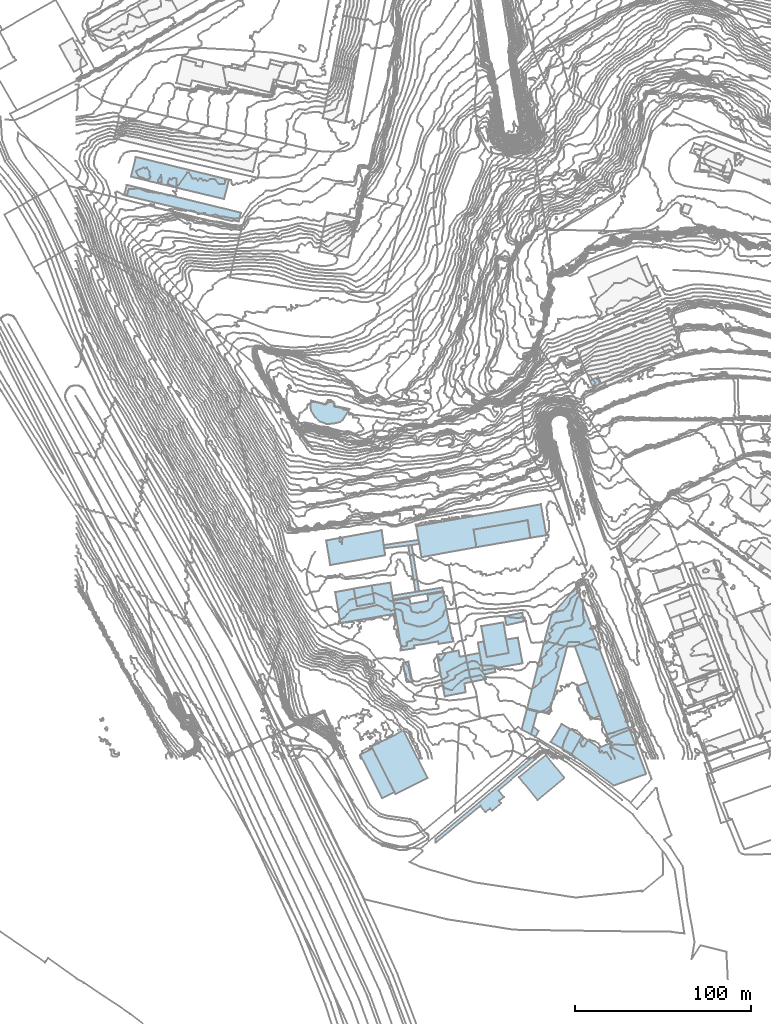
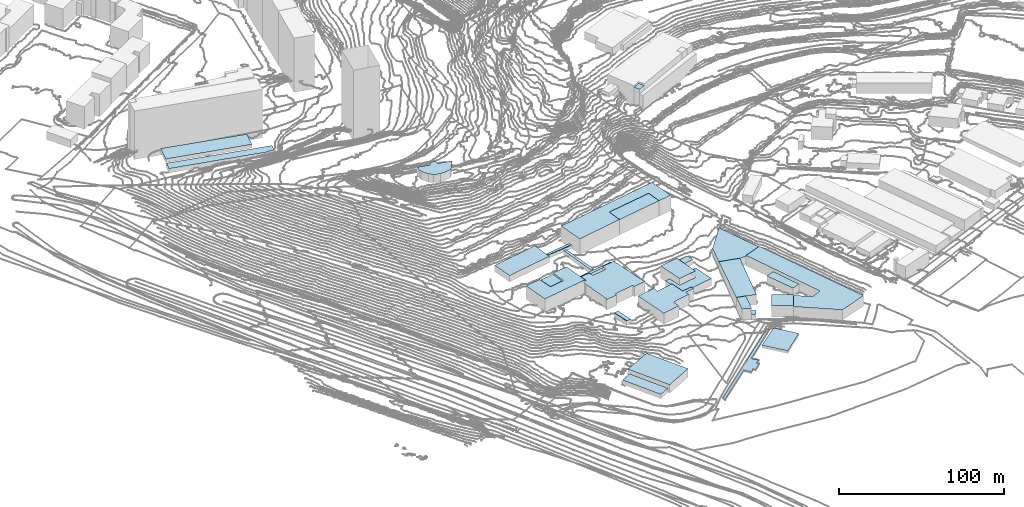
# Not in any storey, part 71 of 419: 30 roofs.
"""IFC2X3 model written with IfcOpenShell, lengths in metres."""

import ifcopenshell
import ifcopenshell.guid

model = None  # the IFC model being written
_history = None  # IfcOwnerHistory: only IFC2X3 demands one
_inside = {}  # id of a spatial element -> (the spatial element, [elements in it])
_under = {}  # id of a project, library or spatial element -> (it, [spatial elements below it])
_declared = {}  # id of a project -> (the project, [libraries it declares])
_typed = {}  # id of a type object -> (the type object, [elements of that type])
_made_of = {}  # id of a material, layer set ... -> (it, [elements and type objects made of it])


def new_model(schema):
    """Start an empty IFC model of exactly this schema.

    Asked for "IFC4X3", IfcOpenShell would pick the latest addendum, in which some entities
    have other attributes; the version numbers below select the first issue.
    IFC2X3 requires an IfcOwnerHistory on every rooted entity: one is made here for all.
    """
    global model, _history
    if schema == "IFC4X3":
        model = ifcopenshell.file(schema_version=(4, 3, 0, 0))
    else:
        model = ifcopenshell.file(schema=schema)
    _inside.clear()
    _under.clear()
    _declared.clear()
    _typed.clear()
    _made_of.clear()
    _history = None
    if model.schema == "IFC2X3":
        org = make("IfcOrganization", Name="unknown")
        user = make(
            "IfcPersonAndOrganization",
            ThePerson=make("IfcPerson", FamilyName="unknown"),
            TheOrganization=org,
        )
        app = make(
            "IfcApplication",
            ApplicationDeveloper=org,
            Version="unknown",
            ApplicationFullName="unknown",
            ApplicationIdentifier="unknown",
        )
        _history = make(
            "IfcOwnerHistory",
            OwningUser=user,
            OwningApplication=app,
            ChangeAction="ADDED",
            CreationDate=0,
        )
    return model


def make(cls, **values):
    """One entity of the class cls with the attributes given. An attribute that is None is left unset."""
    return model.create_entity(
        cls, **{name: value for name, value in values.items() if value is not None}
    )


def rooted(cls, **values):
    """An entity with a GlobalId (a new one), such as an element, a storey or a relation."""
    return make(cls, GlobalId=ifcopenshell.guid.new(), OwnerHistory=_history, **values)


def si_unit(unit_type, name, prefix=None):
    """IfcSIUnit, for example si_unit("LENGTHUNIT", "METRE", prefix="MILLI")."""
    return make("IfcSIUnit", UnitType=unit_type, Prefix=prefix, Name=name)


def assignment(units):
    """IfcUnitAssignment: the units of a project."""
    return None if units is None else make("IfcUnitAssignment", Units=units)


def point(xyz):
    """IfcCartesianPoint."""
    return None if xyz is None else make("IfcCartesianPoint", Coordinates=xyz)


def direction(xyz):
    """IfcDirection."""
    return None if xyz is None else make("IfcDirection", DirectionRatios=xyz)


def frame(location, z_axis=None, x_axis=None):
    """IfcAxis2Placement3D, a coordinate frame: its origin and axes. An axis left out is left unset."""
    return make(
        "IfcAxis2Placement3D",
        Location=point(location),
        Axis=direction(z_axis),
        RefDirection=direction(x_axis),
    )


def origin_with_axes():
    """The frame at (0, 0, 0) with the z axis (0, 0, 1) and the x axis (1, 0, 0) written out."""
    return frame((0.0, 0.0, 0.0), z_axis=(0.0, 0.0, 1.0), x_axis=(1.0, 0.0, 0.0))


def place(relative_to, where):
    """IfcLocalPlacement: puts the frame where relative to a parent placement (None: the world)."""
    return make(
        "IfcLocalPlacement", PlacementRelTo=relative_to, RelativePlacement=where
    )


def context(
    kind, dimensions, precision=None, world=None, true_north=None, identifier=None
):
    """IfcGeometricRepresentationContext, for example the 3D "Model" context."""
    return make(
        "IfcGeometricRepresentationContext",
        ContextIdentifier=identifier,
        ContextType=kind,
        CoordinateSpaceDimension=dimensions,
        Precision=precision,
        WorldCoordinateSystem=world,
        TrueNorth=true_north,
    )


def subcontext(parent, identifier, kind, view, scale=None):
    """IfcGeometricRepresentationSubContext, for example "Body" below "Model"."""
    return make(
        "IfcGeometricRepresentationSubContext",
        ContextIdentifier=identifier,
        ContextType=kind,
        ParentContext=parent,
        TargetScale=scale,
        TargetView=view,
    )


def project(units=None, contexts=None):
    """IfcProject with its units and contexts."""
    return rooted(
        "IfcProject",
        Name="project",
        RepresentationContexts=contexts,
        UnitsInContext=assignment(units),
    )


def faces_of(points, faces, orient=None, outer=None):
    """IfcFace entities. A face is a list of loops; a loop is a list of indices into points, from 0.

    orient and outer hold one flag for each loop. By default every Orientation is true, the
    first loop of a face is its IfcFaceOuterBound and the others are IfcFaceBound.
    """
    made = []
    for i, loops in enumerate(faces):
        bounds = []
        for j, loop in enumerate(loops):
            is_outer = j == 0 if outer is None else outer[i][j]
            bounds.append(
                make(
                    "IfcFaceOuterBound" if is_outer else "IfcFaceBound",
                    Bound=make("IfcPolyLoop", Polygon=[points[k] for k in loop]),
                    Orientation=True if orient is None else orient[i][j],
                )
            )
        made.append(make("IfcFace", Bounds=bounds))
    return made


def faceted_brep(points, faces, orient=None, outer=None, voids=None):
    """IfcFacetedBrep: a solid bounded by flat faces; with voids (closed shells), ...WithVoids."""
    shared = [point(p) for p in points]
    hull = make("IfcClosedShell", CfsFaces=faces_of(shared, faces, orient, outer))
    if voids is None:
        return make("IfcFacetedBrep", Outer=hull)
    return make(
        "IfcFacetedBrepWithVoids",
        Outer=hull,
        Voids=[
            make(cls, CfsFaces=faces_of(shared, fs, o, b)) for cls, fs, o, b in voids
        ],
    )


def shape(context_of_items, identifier, shape_type, items):
    """IfcShapeRepresentation: the items that make up one representation, for example the "Body"."""
    return make(
        "IfcShapeRepresentation",
        ContextOfItems=context_of_items,
        RepresentationIdentifier=identifier,
        RepresentationType=shape_type,
        Items=items,
    )


def made_of(thing, what):
    """Note that an element or type object is made of a material, layer set ...; save() writes the relation."""
    if what is not None:
        _made_of.setdefault(what.id(), (what, []))[1].append(thing)
    return thing


def element(
    cls,
    number,
    at=None,
    inside=None,
    cuts=None,
    type_object=None,
    material=None,
    context=None,
    identifier="Body",
    shape_type=None,
    held_by="IfcProductDefinitionShape",
    body=None,
    shapes=None,
    **own,
):
    """One element of the class cls, such as IfcWall. Its Tag is "e" and its number.

    at: its placement. inside: the storey or other place that contains it. cuts: it is an
    opening in that element (IfcRelVoidsElement). A single representation is given by context,
    identifier, shape_type and body (its items); several are given by shapes. held_by: the class
    of the entity that holds the representations. save() writes the other relations.
    """
    e = rooted(cls, Tag="e%d" % number, ObjectPlacement=at, **own)
    if body is not None:
        shapes = [shape(context, identifier, shape_type, body)]
    if shapes is not None:
        e.Representation = make(held_by, Representations=shapes)
    if inside is not None:
        _inside.setdefault(inside.id(), (inside, []))[1].append(e)
    if cuts is not None:
        rooted(
            "IfcRelVoidsElement", RelatingBuildingElement=cuts, RelatedOpeningElement=e
        )
    if type_object is not None:
        _typed.setdefault(type_object.id(), (type_object, []))[1].append(e)
    return made_of(e, material)


def aggregate(whole, parts):
    """IfcRelAggregates: a whole, such as a stair, and the parts it consists of."""
    return rooted("IfcRelAggregates", RelatingObject=whole, RelatedObjects=parts)


def save(model, path):
    """Write the relations noted so far, then the file.

    IfcRelAggregates (storeys below a building ...), IfcRelContainedInSpatialStructure (elements
    in a storey), IfcRelDefinesByType, IfcRelAssociatesMaterial and IfcRelDeclares: one each for
    every whole, place, type object, material and project.
    """
    for whole, parts in _under.values():
        aggregate(whole, parts)
    for where, things in _inside.values():
        rooted(
            "IfcRelContainedInSpatialStructure",
            RelatedElements=things,
            RelatingStructure=where,
        )
    for kind, things in _typed.values():
        rooted("IfcRelDefinesByType", RelatedObjects=things, RelatingType=kind)
    for what, things in _made_of.values():
        rooted("IfcRelAssociatesMaterial", RelatedObjects=things, RelatingMaterial=what)
    for by, libraries in _declared.values():
        rooted("IfcRelDeclares", RelatingContext=by, RelatedDefinitions=libraries)
    model.write(path)


model = new_model("IFC2X3")

# Units and contexts
model_context = context("Model", 3, precision=1e-05, world=origin_with_axes())
body_context = subcontext(model_context, "Body", "Model", "MODEL_VIEW")
ifc_project = project(units=[si_unit("AREAUNIT", "SQUARE_METRE"), si_unit("LENGTHUNIT", "METRE")], contexts=[model_context])

# Roofs
roof_1_placement = place(None, frame((133.1920204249, 199.1976909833, 52.7420005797), z_axis=(0.0, 0.0, 1.0), x_axis=(1.0, 0.0, 0.0)))
element("IfcRoof", 1, at=roof_1_placement, Name="Toiture 0", ShapeType="NOTDEFINED", context=body_context, shape_type="Brep", body=[
    faceted_brep([(0.3999999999, 3.2999999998, 6.0), (0.0, 0.0, 6.0), (0.2999999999, -2.0, 6.0), (2.7999999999, -6.4000000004, 6.0), (5.2999999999, -8.6000000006, 6.0), (9.1, -10.0, 6.0), (13.1, -9.8000000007, 6.0), (16.7999999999, -8.9000000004, 6.0), (18.5, -7.4000000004, 6.0), (22.2, -1.5, 6.0), (13.5, 0.2999999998, 6.0), (13.2, 2.5999999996, 6.0), (11.3999999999, 3.5999999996, 6.0), (9.8999999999, 3.5, 6.0), (8.2999999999, 1.2999999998, 6.0)], [[[0, 1, 2]], [[2, 3, 4]], [[4, 5, 6]], [[6, 7, 8]], [[8, 9, 10]], [[10, 11, 12]], [[12, 13, 14]], [[14, 0, 2]], [[2, 4, 6]], [[6, 8, 10]], [[10, 12, 14]], [[14, 2, 6]], [[6, 10, 14]]]),
])
roof_2_placement = place(None, frame((188.8920204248, 120.0976909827, 24.4439993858), z_axis=(0.0, 0.0, 1.0), x_axis=(1.0, 0.0, 0.0)))
element("IfcRoof", 2, at=roof_2_placement, Name="Toiture 0", ShapeType="NOTDEFINED", context=body_context, shape_type="Brep", body=[
    faceted_brep([(4.1, -26.2999999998, 3.0560006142), (6.2, -26.0, 3.0560006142), (2.0, 0.2000000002, 3.0560006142), (0.0, 0.0, 3.0560006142)], [[[0, 1, 2]], [[2, 3, 0]]]),
])
roof_3_placement = place(None, frame((180.3920204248, 88.6976909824, 21.1200008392), z_axis=(0.0, 0.0, 1.0), x_axis=(1.0, 0.0, 0.0)))
element("IfcRoof", 3, at=roof_3_placement, Name="Toiture 0", ShapeType="NOTDEFINED", context=body_context, shape_type="Brep", body=[
    faceted_brep([(0.0, 0.0, 7.6799991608), (1.2999999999, -8.0999999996, 7.6799991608), (4.6, -27.5999999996, 7.6799991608), (4.0, -27.7000000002, 7.6799991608), (4.1, -28.3999999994, 7.6799991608), (12.0, -27.0999999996, 7.6799991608), (11.7999999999, -25.5999999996, 7.6799991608), (25.5, -23.2999999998, 7.6799991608), (25.7999999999, -24.7000000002, 7.6799991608), (34.2, -23.2999999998, 7.6799991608), (33.8999999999, -21.3999999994, 7.6799991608), (33.5, -21.5, 7.6799991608), (28.5, 4.2000000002, 7.6799991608), (29.0, 4.2000000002, 7.6799991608), (28.8999999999, 4.9000000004, 7.6799991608), (19.5, 3.2999999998, 7.6799991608), (19.7999999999, -0.0999999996, 7.6799991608), (9.8999999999, -1.8999999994, 7.6799991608), (9.1, 1.5, 7.6799991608)], [[[0, 1, 2]], [[2, 3, 4]], [[4, 5, 6]], [[7, 8, 9]], [[9, 10, 11]], [[12, 13, 14]], [[14, 15, 16]], [[17, 18, 0]], [[2, 4, 6]], [[7, 9, 11]], [[12, 14, 16]], [[17, 0, 2]], [[6, 7, 11]], [[11, 12, 16]], [[16, 17, 2]], [[6, 11, 16]], [[16, 2, 6]]]),
])
roof_4_placement = place(None, frame((30.9920204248, 329.8976909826, 20.8107998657), z_axis=(0.0, 0.0, 1.0), x_axis=(1.0, 0.0, 0.0)))
element("IfcRoof", 4, at=roof_4_placement, Name="Toiture 0", ShapeType="NOTDEFINED", context=body_context, shape_type="Brep", body=[
    faceted_brep([(2.7999999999, 11.2999999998, 2.5892001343), (0.0, 0.0, 2.5892001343), (53.0, -12.7000000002, 2.5892001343), (55.9, -1.7000000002, 2.5892001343)], [[[0, 1, 2]], [[2, 3, 0]]]),
])
roof_5_placement = place(None, frame((258.6920204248, 12.3976909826, 17.0899996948), z_axis=(0.0, 0.0, 1.0), x_axis=(1.0, 0.0, 0.0)))
element("IfcRoof", 5, at=roof_5_placement, Name="Toiture 0", ShapeType="NOTDEFINED", context=body_context, shape_type="Brep", body=[
    faceted_brep([(0.0, 0.0, 3.9100003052), (2.5, -1.2000000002, 3.9100003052), (4.3, 2.0, 3.9100003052), (1.3, 4.5, 3.9100003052)], [[[0, 1, 2]], [[2, 3, 0]]]),
])
roof_6_placement = place(None, frame((182.3920204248, 15.2976909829, 10.0691999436), z_axis=(0.0, 0.0, 1.0), x_axis=(1.0, 0.0, 0.0)))
element("IfcRoof", 6, at=roof_6_placement, Name="Toiture 0", ShapeType="NOTDEFINED", context=body_context, shape_type="Brep", body=[
    faceted_brep([(1.0, -2.0, 7.6308000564), (3.2999999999, -0.9000000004, 7.6308000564), (2.2999999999, 1.1999999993, 7.6308000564), (0.0, 0.0, 7.6308000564)], [[[0, 1, 2]], [[2, 3, 0]]]),
])
roof_7_placement = place(None, frame((174.9920204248, 120.2976909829, 26.5487995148), z_axis=(0.0, 0.0, 1.0), x_axis=(1.0, 0.0, 0.0)))
element("IfcRoof", 7, at=roof_7_placement, Name="Toiture 0", ShapeType="NOTDEFINED", context=body_context, shape_type="Brep", body=[
    faceted_brep([(0.2, -1.9000000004, 2.3512004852), (15.9, 0.0, 2.3512004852), (20.2, 0.6999999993, 2.3512004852), (19.7, 2.8999999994, 2.3512004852), (0.0, 0.0, 2.3512004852)], [[[0, 1, 2]], [[2, 3, 4]], [[4, 0, 2]]]),
])
roof_8_placement = place(None, frame((157.8920204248, 95.4976909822, 23.1267998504), z_axis=(0.0, 0.0, 1.0), x_axis=(1.0, 0.0, 0.0)))
element("IfcRoof", 8, at=roof_8_placement, Name="Toiture 0", ShapeType="NOTDEFINED", context=body_context, shape_type="Brep", body=[
    faceted_brep([(10.2999999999, 1.8000000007, 7.9732001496), (0.0, 0.0, 7.9732001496), (1.7999999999, -10.0, 7.9732001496), (11.7999999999, -8.2999999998, 7.9732001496)], [[[0, 1, 2]], [[2, 3, 0]]]),
])
roof_9_placement = place(None, frame((230.3920204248, 74.0976909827, 20.3390001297), z_axis=(0.0, 0.0, 1.0), x_axis=(1.0, 0.0, 0.0)))
element("IfcRoof", 9, at=roof_9_placement, Name="Toiture 0", ShapeType="NOTDEFINED", context=body_context, shape_type="Brep", body=[
    faceted_brep([(14.2999999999, -7.6000000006, 9.1609998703), (12.7, 2.2000000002, 9.1609998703), (0.0, 0.0, 9.1609998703), (3.2, -17.5, 9.1609998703), (15.7, -15.2999999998, 9.1609998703)], [[[0, 1, 2]], [[2, 3, 4]], [[4, 0, 2]]]),
])
roof_10_placement = place(None, frame((161.5920204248, 0.8976909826, 10.0303997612), z_axis=(0.0, 0.0, 1.0), x_axis=(1.0, 0.0, 0.0)))
element("IfcRoof", 10, at=roof_10_placement, Name="Toiture 0", ShapeType="NOTDEFINED", context=body_context, shape_type="Brep", body=[
    faceted_brep([(12.5, -24.7000000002, 3.1696002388), (19.5, -21.2000000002, 3.1696002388), (6.9, 3.7000000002, 3.1696002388), (0.0, 0.0, 3.1696002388)], [[[0, 1, 2]], [[2, 3, 0]]]),
])
roof_11_placement = place(None, frame((292.3920204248, 213.8976909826, 42.5580001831), z_axis=(0.0, 0.0, 1.0), x_axis=(1.0, 0.0, 0.0)))
element("IfcRoof", 11, at=roof_11_placement, Name="Toiture 0", ShapeType="NOTDEFINED", context=body_context, shape_type="Brep", body=[
    faceted_brep([(4.6, 2.2000000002, 12.9419998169), (0.0, 0.0, 12.9419998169), (1.7999999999, -3.7000000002, 12.9419998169), (6.3999999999, -1.5, 12.9419998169)], [[[0, 1, 2]], [[2, 3, 0]]]),
])
roof_12_placement = place(None, frame((266.3920204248, 65.6976909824, 18.6400001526), z_axis=(0.0, 0.0, 1.0), x_axis=(1.0, 0.0, 0.0)))
element("IfcRoof", 12, at=roof_12_placement, Name="Toiture 0", ShapeType="NOTDEFINED", context=body_context, shape_type="Brep", body=[
    faceted_brep([(3.8999999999, 14.4000000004, 6.2599998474), (0.0, 0.0, 6.2599998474), (12.8999999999, -3.2999999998, 6.2599998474), (17.2999999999, -3.0, 6.2599998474), (29.2999999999, 1.2999999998, 6.2599998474), (18.2, 31.2999999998, 6.2599998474)], [[[0, 1, 2]], [[2, 3, 4]], [[4, 5, 0]], [[0, 2, 4]]]),
])
roof_13_placement = place(None, frame((269.9920204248, 8.0976909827, 17.6167998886), z_axis=(0.0, 0.0, 1.0), x_axis=(1.0, 0.0, 0.0)))
element("IfcRoof", 13, at=roof_13_placement, Name="Toiture 0", ShapeType="NOTDEFINED", context=body_context, shape_type="Brep", body=[
    faceted_brep([(0.0, 0.0, 8.5832001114), (11.7, -6.9000000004, 8.5832001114), (17.6, 3.3999999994, 8.5832001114), (6.1, 10.2999999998, 8.5832001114)], [[[0, 1, 2]], [[2, 3, 0]]]),
])
roof_14_placement = place(None, frame((256.4920204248, 27.2976909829, 17.81629982), z_axis=(0.0, 0.0, 1.0), x_axis=(1.0, 0.0, 0.0)))
element("IfcRoof", 14, at=roof_14_placement, Name="Toiture 0", ShapeType="NOTDEFINED", context=body_context, shape_type="Brep", body=[
    faceted_brep([(9.9, 38.3999999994, 7.28370018), (0.0, 0.0, 7.28370018), (12.4, -3.2000000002, 7.28370018), (22.7999999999, 35.0999999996, 7.28370018)], [[[0, 1, 2]], [[2, 3, 0]]]),
])
roof_15_placement = place(None, frame((285.3920204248, 40.0976909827, 17.896000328), z_axis=(0.0, 0.0, 1.0), x_axis=(1.0, 0.0, 0.0)))
element("IfcRoof", 15, at=roof_15_placement, Name="Toiture 0", ShapeType="NOTDEFINED", context=body_context, shape_type="Brep", body=[
    faceted_brep([(12.6, -17.0, 5.403999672), (5.7, 2.2999999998, 5.403999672), (0.0, 0.0, 5.403999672), (7.2999999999, -19.1000000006, 5.403999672)], [[[0, 1, 2]], [[2, 3, 0]]]),
])
roof_16_placement = place(None, frame((253.3920204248, 15.1976909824, 17.2552001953), z_axis=(0.0, 0.0, 1.0), x_axis=(1.0, 0.0, 0.0)))
element("IfcRoof", 16, at=roof_16_placement, Name="Toiture 0", ShapeType="NOTDEFINED", context=body_context, shape_type="Brep", body=[
    faceted_brep([(5.2999999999, -2.7999999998, 8.0447998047), (6.6, 1.7000000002, 8.0447998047), (8.8999999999, 10.7000000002, 8.0447998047), (3.1, 12.1000000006, 8.0447998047), (0.0, 0.0, 8.0447998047)], [[[0, 1, 2]], [[2, 3, 4]], [[4, 0, 2]]]),
])
roof_17_placement = place(None, frame((226.0920204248, 129.0976909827, 26.2239994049), z_axis=(0.0, 0.0, 1.0), x_axis=(1.0, 0.0, 0.0)))
element("IfcRoof", 17, at=roof_17_placement, Name="Toiture 0", ShapeType="NOTDEFINED", context=body_context, shape_type="Brep", body=[
    faceted_brep([(0.0, 0.0, 11.2760005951), (1.6, -10.0, 11.2760005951), (32.3, -4.7000000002, 11.2760005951), (30.8, 5.2999999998, 11.2760005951)], [[[0, 1, 2]], [[2, 3, 0]]]),
])
roof_18_placement = place(None, frame((251.8920204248, -11.7023090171, 13.2014000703), z_axis=(0.0, 0.0, 1.0), x_axis=(1.0, 0.0, 0.0)))
element("IfcRoof", 18, at=roof_18_placement, Name="Toiture 0", ShapeType="NOTDEFINED", context=body_context, shape_type="Brep", body=[
    faceted_brep([(0.0, 0.0, 1.8985999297), (10.7, -13.1000000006, 1.8985999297), (25.7999999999, -0.4000000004, 1.8985999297), (15.3999999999, 12.5, 1.8985999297)], [[[0, 1, 2]], [[2, 3, 0]]]),
])
roof_19_placement = place(None, frame((228.4920204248, 64.7976909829, 19.5300000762), z_axis=(0.0, 0.0, 1.0), x_axis=(1.0, 0.0, 0.0)))
element("IfcRoof", 19, at=roof_19_placement, Name="Toiture 0", ShapeType="NOTDEFINED", context=body_context, shape_type="Brep", body=[
    faceted_brep([(22.7999999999, 2.7999999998, 5.1699999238), (16.2, 1.6999999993, 5.1699999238), (17.6, -6.0, 5.1699999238), (5.1, -8.2000000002, 5.1699999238), (3.2999999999, 0.5999999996, 5.1699999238), (0.0, 0.0, 5.1699999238), (25.5, -11.8000000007, 5.1699999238), (2.9, -15.8000000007, 5.1699999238)], [[[0, 1, 2]], [[3, 4, 5]], [[6, 0, 2]], [[3, 5, 7]], [[7, 6, 2]], [[2, 3, 7]]]),
])
roof_20_placement = place(None, frame((167.9920204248, 5.6976909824, 10.0228000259), z_axis=(0.0, 0.0, 1.0), x_axis=(1.0, 0.0, 0.0)))
element("IfcRoof", 20, at=roof_20_placement, Name="Toiture 0", ShapeType="NOTDEFINED", context=body_context, shape_type="Brep", body=[
    faceted_brep([(31.5, -18.0999999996, 6.1771999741), (31.9, -17.8999999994, 6.1771999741), (18.2999999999, 9.0, 6.1771999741), (0.0, 0.0, 6.1771999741), (13.6, -27.0999999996, 6.1771999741)], [[[0, 1, 2]], [[2, 3, 4]], [[4, 0, 2]]]),
])
roof_21_placement = place(None, frame((27.1920204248, 319.3976909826, 20.8730007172), z_axis=(0.0, 0.0, 1.0), x_axis=(1.0, 0.0, 0.0)))
element("IfcRoof", 21, at=roof_21_placement, Name="Toiture 0", ShapeType="NOTDEFINED", context=body_context, shape_type="Brep", body=[
    faceted_brep([(1.4, 5.9000000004, 3.1269992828), (0.0, 0.0, 3.1269992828), (61.5, -14.7999999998, 3.1269992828), (62.0, -14.2999999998, 3.1269992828), (65.2000000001, -14.9000000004, 3.1269992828), (66.4, -10.0, 3.1269992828)], [[[0, 1, 2]], [[3, 4, 5]], [[0, 2, 3]], [[3, 5, 0]]]),
])
roof_22_placement = place(None, frame((243.7920204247, 79.7976909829, 20.529400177), z_axis=(0.0, 0.0, 1.0), x_axis=(1.0, 0.0, 0.0)))
element("IfcRoof", 22, at=roof_22_placement, Name="Toiture 0", ShapeType="NOTDEFINED", context=body_context, shape_type="Brep", body=[
    faceted_brep([(10.0, 2.0, 3.570599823), (0.0, 0.0, 3.570599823), (1.0, -5.1000000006, 3.570599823), (10.9, -2.9000000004, 3.570599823)], [[[0, 1, 2]], [[2, 3, 0]]]),
])
roof_23_placement = place(None, frame((204.3920204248, -46.9023090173, 13.6460001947), z_axis=(0.0, 0.0, 1.0), x_axis=(1.0, 0.0, 0.0)))
element("IfcRoof", 23, at=roof_23_placement, Name="Toiture 0", ShapeType="NOTDEFINED", context=body_context, shape_type="Brep", body=[
    faceted_brep([(35.7999999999, 27.5999999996, 0.3539998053), (61.2, 49.0, 0.3539998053), (59.2999999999, 50.0, 0.3539998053), (0.0, 0.0, 0.3539998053), (0.1, -2.2000000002, 0.3539998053), (25.5, 18.8999999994, 0.3539998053), (28.3999999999, 15.2000000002, 0.3539998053), (31.0, 17.2999999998, 0.3539998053), (32.1, 16.0, 0.3539998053), (37.2, 20.2999999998, 0.3539998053), (36.1, 21.7000000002, 0.3539998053), (38.8999999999, 23.7999999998, 0.3539998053)], [[[0, 1, 2]], [[2, 3, 4]], [[5, 6, 7]], [[7, 8, 9]], [[10, 11, 0]], [[0, 2, 4]], [[5, 7, 9]], [[0, 4, 5]], [[5, 9, 10]], [[10, 0, 5]]]),
])
roof_24_placement = place(None, frame((179.8920204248, 91.4976909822, 24.266900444), z_axis=(0.0, 0.0, 1.0), x_axis=(1.0, 0.0, 0.0)))
element("IfcRoof", 24, at=roof_24_placement, Name="Toiture 0", ShapeType="NOTDEFINED", context=body_context, shape_type="Brep", body=[
    faceted_brep([(0.0, 0.0, 2.733099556), (0.3999999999, -2.1999999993, 2.733099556), (28.7999999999, 2.6000000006, 2.733099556), (28.3999999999, 4.6000000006, 2.733099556)], [[[0, 1, 2]], [[2, 3, 0]]]),
])
roof_25_placement = place(None, frame((142.1920204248, 122.8976909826, 26.5680005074), z_axis=(0.0, 0.0, 1.0), x_axis=(1.0, 0.0, 0.0)))
element("IfcRoof", 25, at=roof_25_placement, Name="Toiture 0", ShapeType="NOTDEFINED", context=body_context, shape_type="Brep", body=[
    faceted_brep([(33.0, -4.5, 4.6319994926), (31.6, 5.7999999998, 4.6319994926), (0.0, 0.0, 4.6319994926), (2.3, -14.0, 4.6319994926), (33.6, -8.4000000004, 4.6319994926)], [[[0, 1, 2]], [[2, 3, 4]], [[4, 0, 2]]]),
])
roof_26_placement = place(None, frame((185.8920204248, 53.1976909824, 19.6990001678), z_axis=(0.0, 0.0, 1.0), x_axis=(1.0, 0.0, 0.0)))
element("IfcRoof", 26, at=roof_26_placement, Name="Toiture 0", ShapeType="NOTDEFINED", context=body_context, shape_type="Brep", body=[
    faceted_brep([(0.0, 0.0, 3.1009998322), (1.7999999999, -9.7000000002, 3.1009998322), (2.2, -11.0, 3.1009998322), (5.3999999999, -10.7999999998, 3.1009998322), (3.1, 0.7999999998, 3.1009998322)], [[[0, 1, 2]], [[2, 3, 4]], [[4, 0, 2]]]),
])
roof_27_placement = place(None, frame((193.3920204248, 130.9976909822, 26.0479995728), z_axis=(0.0, 0.0, 1.0), x_axis=(1.0, 0.0, 0.0)))
element("IfcRoof", 27, at=roof_27_placement, Name="Toiture 0", ShapeType="NOTDEFINED", context=body_context, shape_type="Brep", body=[
    faceted_brep([(1.7999999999, -10.0, 11.4520004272), (3.0, -17.5999999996, 11.4520004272), (34.2999999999, -11.8999999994, 11.4520004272), (63.5, 3.4000000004, 11.4520004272), (65.0, -6.5999999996, 11.4520004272), (74.1, -5.0999999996, 11.4520004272), (71.0, 12.5, 11.4520004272), (0.0, 0.0, 11.4520004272), (32.7, -1.8999999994, 11.4520004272)], [[[0, 1, 2]], [[3, 4, 5]], [[6, 7, 0]], [[0, 2, 8]], [[3, 5, 6]], [[6, 0, 8]], [[8, 3, 6]]]),
])
roof_28_placement = place(None, frame((205.2920204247, 57.8976909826, 17.6740001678), z_axis=(0.0, 0.0, 1.0), x_axis=(1.0, 0.0, 0.0)))
element("IfcRoof", 28, at=roof_28_placement, Name="Toiture 0", ShapeType="NOTDEFINED", context=body_context, shape_type="Brep", body=[
    faceted_brep([(26.1000000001, -8.9000000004, 8.0259998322), (24.3, 1.0, 8.0259998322), (12.9, -1.2000000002, 8.0259998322), (12.3, 2.4000000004, 8.0259998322), (0.0, 0.0, 8.0259998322), (4.4, -23.7000000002, 8.0259998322), (16.2000000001, -21.4000000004, 8.0259998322), (15.6000000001, -16.2999999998, 8.0259998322), (27.8, -13.7999999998, 8.0259998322), (27.0, -11.2000000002, 8.0259998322), (33.3, -9.7999999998, 8.0259998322), (32.7000000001, -7.7000000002, 8.0259998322)], [[[0, 1, 2]], [[2, 3, 4]], [[4, 5, 6]], [[7, 8, 9]], [[9, 10, 11]], [[0, 2, 4]], [[4, 6, 7]], [[7, 9, 11]], [[0, 4, 7]], [[7, 11, 0]]]),
])
roof_29_placement = place(None, frame((147.2920204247, 93.4976909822, 22.1154997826), z_axis=(0.0, 0.0, 1.0), x_axis=(1.0, 0.0, 0.0)))
element("IfcRoof", 29, at=roof_29_placement, Name="Toiture 0", ShapeType="NOTDEFINED", context=body_context, shape_type="Brep", body=[
    faceted_brep([(33.8, -13.0, 9.7845002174), (34.4, -12.8999999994, 9.7845002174), (31.4, 5.4000000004, 9.7845002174), (20.9, 3.8000000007, 9.7845002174), (22.4, -6.2999999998, 9.7845002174), (12.4, -8.0, 9.7845002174), (10.6000000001, 2.0, 9.7845002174), (0.0, 0.0, 9.7845002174), (33.6000000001, -12.3999999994, 9.7845002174), (3.0, -17.5999999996, 9.7845002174)], [[[0, 1, 2]], [[2, 3, 4]], [[5, 6, 7]], [[8, 0, 2]], [[5, 7, 9]], [[8, 2, 4]], [[4, 5, 9]], [[9, 8, 4]]]),
])
roof_30_placement = place(None, frame((281.6920204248, 1.1976909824, 17.9139993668), z_axis=(0.0, 0.0, 1.0), x_axis=(1.0, 0.0, 0.0)))
element("IfcRoof", 30, at=roof_30_placement, Name="Toiture 0", ShapeType="NOTDEFINED", context=body_context, shape_type="Brep", body=[
    faceted_brep([(14.0, 65.7999999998, 7.5860006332), (2.0, 61.5, 7.5860006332), (22.1, 6.2999999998, 7.5860006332), (15.6, 3.6000000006, 7.5860006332), (5.9, 10.2999999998, 7.5860006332), (0.0, 0.0, 7.5860006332), (24.0, -17.7999999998, 7.5860006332), (41.9, -11.3999999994, 7.5860006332), (42.6, -11.0, 7.5860006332)], [[[0, 1, 2]], [[3, 4, 5]], [[5, 6, 7]], [[7, 8, 0]], [[3, 5, 7]], [[7, 0, 2]], [[2, 3, 7]]]),
])

save(model, "model.ifc")
